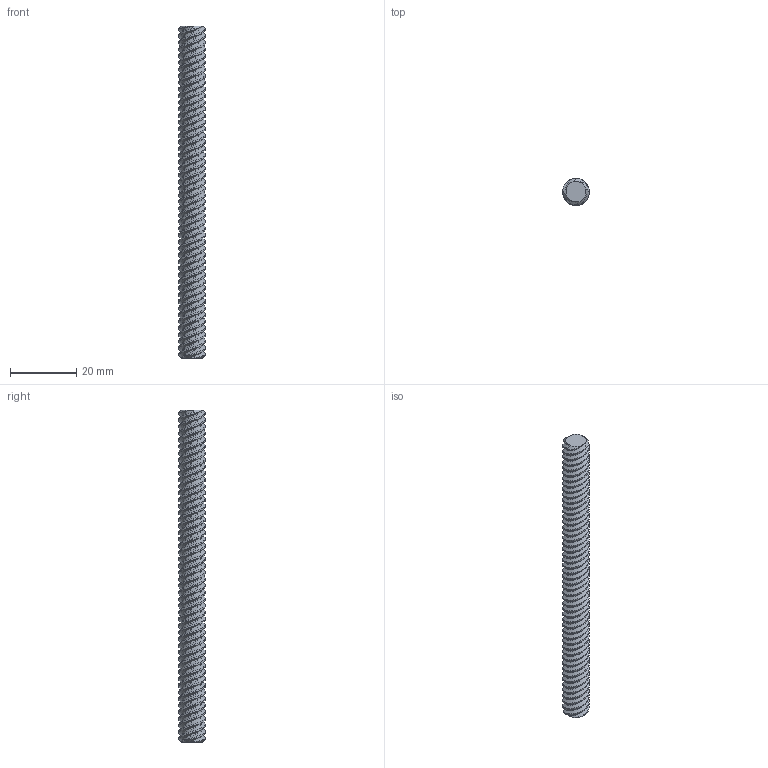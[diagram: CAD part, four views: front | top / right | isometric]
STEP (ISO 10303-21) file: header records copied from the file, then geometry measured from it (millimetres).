
FILE_DESCRIPTION (( 'STEP AP203' ), '1' );
FILE_NAME ('3501-0804-0100.STEP', '2018-11-07T16:26:12', ( '' ), ( '' ), 'SwSTEP 2.0', 'SolidWorks 2016', '' );
FILE_SCHEMA (( 'CONFIG_CONTROL_DESIGN' ));
Length unit declared in the file: millimetre
Products named in the file (1): 3501-0804-0100
Bounding box: 8 x 8 x 100 mm (x, y, z)
Volume: 3853.1 mm3; surface area: 3676.1 mm2
Topology: 1 solids, 1 shells, 130 faces, 384 edges, 256 vertices
Faces by surface type: cylinder 106, bspline 12, cone 10, plane 2
Entity records: 54981 total; most frequent: CARTESIAN_POINT 52191, ORIENTED_EDGE 768, EDGE_CURVE 384, DIRECTION 382, VERTEX_POINT 256, AXIS2_PLACEMENT_3D 139, ADVANCED_FACE 130, EDGE_LOOP 130
